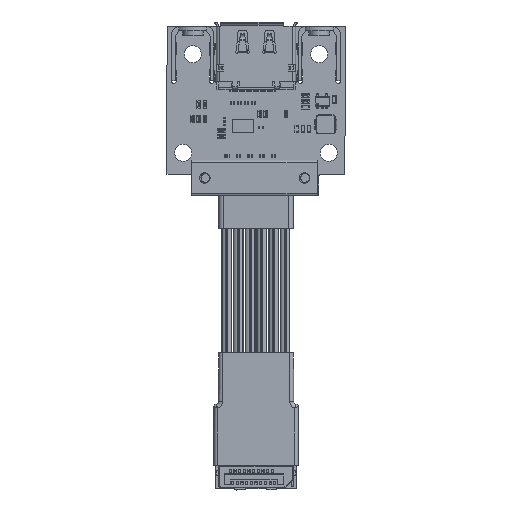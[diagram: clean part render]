
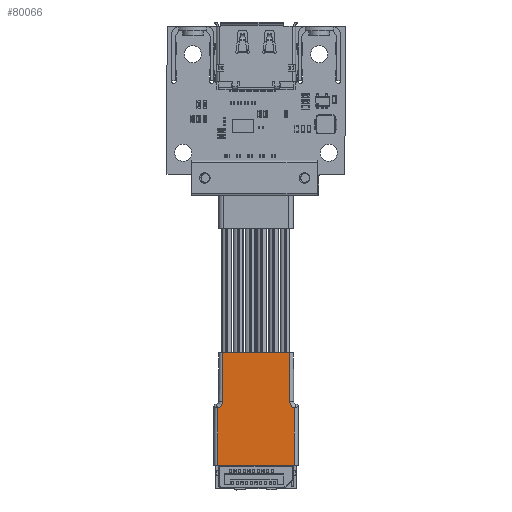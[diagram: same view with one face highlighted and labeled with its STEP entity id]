
A CAD part, top view. The second image highlights one B-rep face of the part: STEP entity #80066.
In plain terms, the highlighted planar face has unit normal (0, 0, 1) as drawn and (-1, 0, 0) by its records, which use the part's own axes.
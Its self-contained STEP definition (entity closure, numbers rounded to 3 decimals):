
#79822 = VERTEX_POINT('',#79823);
#79823 = CARTESIAN_POINT('',(0.,28.,-16.2));
#79830 = EDGE_CURVE('',#79822,#79831,#79833,.T.);
#79831 = VERTEX_POINT('',#79832);
#79832 = CARTESIAN_POINT('',(0.,28.,-1.8));
#79833 = LINE('',#79834,#79835);
#79834 = CARTESIAN_POINT('',(0.,28.,-18.));
#79835 = VECTOR('',#79836,1.);
#79836 = DIRECTION('',(0.,0.,1.));
#79924 = EDGE_CURVE('',#79925,#79927,#79929,.T.);
#79925 = VERTEX_POINT('',#79926);
#79926 = CARTESIAN_POINT('',(0.,4.,-17.2));
#79927 = VERTEX_POINT('',#79928);
#79928 = CARTESIAN_POINT('',(0.,4.,-0.8));
#79929 = LINE('',#79930,#79931);
#79930 = CARTESIAN_POINT('',(0.,4.,-18.));
#79931 = VECTOR('',#79932,1.);
#79932 = DIRECTION('',(0.,0.,1.));
#80066 = ADVANCED_FACE('',(#80067),#80117,.F.);
#80067 = FACE_BOUND('',#80068,.T.);
#80068 = EDGE_LOOP('',(#80069,#80070,#80078,#80087,#80093,#80094,#80102,
    #80111));
#80069 = ORIENTED_EDGE('',*,*,#79830,.F.);
#80070 = ORIENTED_EDGE('',*,*,#80071,.T.);
#80071 = EDGE_CURVE('',#79822,#80072,#80074,.T.);
#80072 = VERTEX_POINT('',#80073);
#80073 = CARTESIAN_POINT('',(0.,17.5,-16.2));
#80074 = LINE('',#80075,#80076);
#80075 = CARTESIAN_POINT('',(0.,17.5,-16.2));
#80076 = VECTOR('',#80077,1.);
#80077 = DIRECTION('',(-0.,-1.,0.));
#80078 = ORIENTED_EDGE('',*,*,#80079,.T.);
#80079 = EDGE_CURVE('',#80072,#80080,#80082,.T.);
#80080 = VERTEX_POINT('',#80081);
#80081 = CARTESIAN_POINT('',(0.,16.235,-17.2));
#80082 = CIRCLE('',#80083,1.3);
#80083 = AXIS2_PLACEMENT_3D('',#80084,#80085,#80086);
#80084 = CARTESIAN_POINT('',(0.,17.5,-17.5));
#80085 = DIRECTION('',(1.,-0.,0.));
#80086 = DIRECTION('',(0.,0.,-1.));
#80087 = ORIENTED_EDGE('',*,*,#80088,.T.);
#80088 = EDGE_CURVE('',#80080,#79925,#80089,.T.);
#80089 = LINE('',#80090,#80091);
#80090 = CARTESIAN_POINT('',(0.,0.,-17.2));
#80091 = VECTOR('',#80092,1.);
#80092 = DIRECTION('',(-0.,-1.,-0.));
#80093 = ORIENTED_EDGE('',*,*,#79924,.T.);
#80094 = ORIENTED_EDGE('',*,*,#80095,.T.);
#80095 = EDGE_CURVE('',#79927,#80096,#80098,.T.);
#80096 = VERTEX_POINT('',#80097);
#80097 = CARTESIAN_POINT('',(0.,16.235,-0.8));
#80098 = LINE('',#80099,#80100);
#80099 = CARTESIAN_POINT('',(0.,16.5,-0.8));
#80100 = VECTOR('',#80101,1.);
#80101 = DIRECTION('',(0.,1.,-0.));
#80102 = ORIENTED_EDGE('',*,*,#80103,.T.);
#80103 = EDGE_CURVE('',#80096,#80104,#80106,.T.);
#80104 = VERTEX_POINT('',#80105);
#80105 = CARTESIAN_POINT('',(0.,17.5,-1.8));
#80106 = CIRCLE('',#80107,1.3);
#80107 = AXIS2_PLACEMENT_3D('',#80108,#80109,#80110);
#80108 = CARTESIAN_POINT('',(0.,17.5,-0.5));
#80109 = DIRECTION('',(1.,-0.,0.));
#80110 = DIRECTION('',(0.,0.,-1.));
#80111 = ORIENTED_EDGE('',*,*,#80112,.T.);
#80112 = EDGE_CURVE('',#80104,#79831,#80113,.T.);
#80113 = LINE('',#80114,#80115);
#80114 = CARTESIAN_POINT('',(0.,0.,-1.8));
#80115 = VECTOR('',#80116,1.);
#80116 = DIRECTION('',(0.,1.,-0.));
#80117 = PLANE('',#80118);
#80118 = AXIS2_PLACEMENT_3D('',#80119,#80120,#80121);
#80119 = CARTESIAN_POINT('',(0.,0.,-18.));
#80120 = DIRECTION('',(1.,-0.,0.));
#80121 = DIRECTION('',(0.,0.,-1.));
